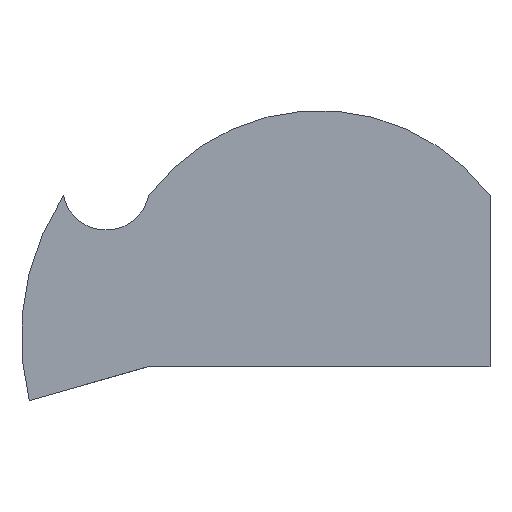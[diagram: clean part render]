
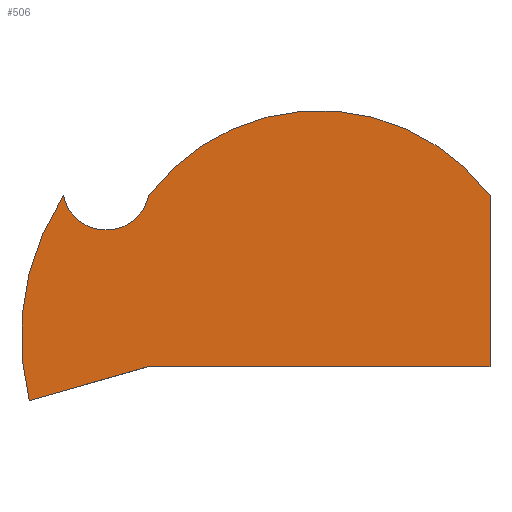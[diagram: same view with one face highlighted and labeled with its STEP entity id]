
A CAD part, top view. The second image highlights one B-rep face of the part: STEP entity #506.
In plain terms, the highlighted planar face has unit normal (0, 0, 1).
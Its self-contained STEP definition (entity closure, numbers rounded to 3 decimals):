
#24 = VERTEX_POINT('',#25);
#25 = CARTESIAN_POINT('',(-9.117,-9.463,1.82
    ));
#32 = PLANE('',#33);
#33 = AXIS2_PLACEMENT_3D('',#34,#35,#36);
#34 = CARTESIAN_POINT('',(-9.117,-9.463,
    -1.82));
#35 = DIRECTION('',(0.,1.,0.));
#36 = DIRECTION('',(1.,0.,0.));
#44 = PLANE('',#45);
#45 = AXIS2_PLACEMENT_3D('',#46,#47,#48);
#46 = CARTESIAN_POINT('',(-19.308,-12.375,
    -1.82));
#47 = DIRECTION('',(-0.275,0.962,0.));
#48 = DIRECTION('',(0.962,0.275,0.));
#56 = EDGE_CURVE('',#24,#57,#59,.T.);
#57 = VERTEX_POINT('',#58);
#58 = CARTESIAN_POINT('',(20.,-9.463,1.82));
#59 = SURFACE_CURVE('',#60,(#64,#71),.PCURVE_S1.);
#60 = LINE('',#61,#62);
#61 = CARTESIAN_POINT('',(-9.117,-9.463,1.82
    ));
#62 = VECTOR('',#63,1.);
#63 = DIRECTION('',(1.,0.,0.));
#64 = PCURVE('',#32,#65);
#65 = DEFINITIONAL_REPRESENTATION('',(#66),#70);
#66 = LINE('',#67,#68);
#67 = CARTESIAN_POINT('',(0.,-3.64));
#68 = VECTOR('',#69,1.);
#69 = DIRECTION('',(1.,0.));
#70 = ( GEOMETRIC_REPRESENTATION_CONTEXT(2) 
PARAMETRIC_REPRESENTATION_CONTEXT() REPRESENTATION_CONTEXT('2D SPACE',''
  ) );
#71 = PCURVE('',#72,#77);
#72 = PLANE('',#73);
#73 = AXIS2_PLACEMENT_3D('',#74,#75,#76);
#74 = CARTESIAN_POINT('',(0.097,-1.226,
    1.82));
#75 = DIRECTION('',(0.,0.,1.));
#76 = DIRECTION('',(1.,0.,-0.));
#77 = DEFINITIONAL_REPRESENTATION('',(#78),#82);
#78 = LINE('',#79,#80);
#79 = CARTESIAN_POINT('',(-9.214,-8.237));
#80 = VECTOR('',#81,1.);
#81 = DIRECTION('',(1.,0.));
#82 = ( GEOMETRIC_REPRESENTATION_CONTEXT(2) 
PARAMETRIC_REPRESENTATION_CONTEXT() REPRESENTATION_CONTEXT('2D SPACE',''
  ) );
#100 = PLANE('',#101);
#101 = AXIS2_PLACEMENT_3D('',#102,#103,#104);
#102 = CARTESIAN_POINT('',(20.,-9.463,-1.82));
#103 = DIRECTION('',(-1.,0.,0.));
#104 = DIRECTION('',(0.,1.,0.));
#142 = EDGE_CURVE('',#57,#143,#145,.T.);
#143 = VERTEX_POINT('',#144);
#144 = CARTESIAN_POINT('',(20.,5.095,1.82));
#145 = SURFACE_CURVE('',#146,(#150,#157),.PCURVE_S1.);
#146 = LINE('',#147,#148);
#147 = CARTESIAN_POINT('',(20.,-9.463,1.82));
#148 = VECTOR('',#149,1.);
#149 = DIRECTION('',(0.,1.,0.));
#150 = PCURVE('',#100,#151);
#151 = DEFINITIONAL_REPRESENTATION('',(#152),#156);
#152 = LINE('',#153,#154);
#153 = CARTESIAN_POINT('',(0.,-3.64));
#154 = VECTOR('',#155,1.);
#155 = DIRECTION('',(1.,0.));
#156 = ( GEOMETRIC_REPRESENTATION_CONTEXT(2) 
PARAMETRIC_REPRESENTATION_CONTEXT() REPRESENTATION_CONTEXT('2D SPACE',''
  ) );
#157 = PCURVE('',#72,#158);
#158 = DEFINITIONAL_REPRESENTATION('',(#159),#163);
#159 = LINE('',#160,#161);
#160 = CARTESIAN_POINT('',(19.903,-8.237));
#161 = VECTOR('',#162,1.);
#162 = DIRECTION('',(0.,1.));
#163 = ( GEOMETRIC_REPRESENTATION_CONTEXT(2) 
PARAMETRIC_REPRESENTATION_CONTEXT() REPRESENTATION_CONTEXT('2D SPACE',''
  ) );
#181 = CYLINDRICAL_SURFACE('',#182,18.198);
#182 = AXIS2_PLACEMENT_3D('',#183,#184,#185);
#183 = CARTESIAN_POINT('',(5.441,-5.823,
    -1.82));
#184 = DIRECTION('',(-0.,-0.,-1.));
#185 = DIRECTION('',(0.8,0.6,-0.));
#218 = EDGE_CURVE('',#143,#219,#221,.T.);
#219 = VERTEX_POINT('',#220);
#220 = CARTESIAN_POINT('',(-9.117,5.095,1.82
    ));
#221 = SURFACE_CURVE('',#222,(#227,#234),.PCURVE_S1.);
#222 = CIRCLE('',#223,18.198);
#223 = AXIS2_PLACEMENT_3D('',#224,#225,#226);
#224 = CARTESIAN_POINT('',(5.441,-5.823,1.82
    ));
#225 = DIRECTION('',(0.,0.,1.));
#226 = DIRECTION('',(0.8,0.6,-0.));
#227 = PCURVE('',#181,#228);
#228 = DEFINITIONAL_REPRESENTATION('',(#229),#233);
#229 = LINE('',#230,#231);
#230 = CARTESIAN_POINT('',(-0.,-3.64));
#231 = VECTOR('',#232,1.);
#232 = DIRECTION('',(-1.,0.));
#233 = ( GEOMETRIC_REPRESENTATION_CONTEXT(2) 
PARAMETRIC_REPRESENTATION_CONTEXT() REPRESENTATION_CONTEXT('2D SPACE',''
  ) );
#234 = PCURVE('',#72,#235);
#235 = DEFINITIONAL_REPRESENTATION('',(#236),#240);
#236 = CIRCLE('',#237,18.198);
#237 = AXIS2_PLACEMENT_2D('',#238,#239);
#238 = CARTESIAN_POINT('',(5.345,-4.598));
#239 = DIRECTION('',(0.8,0.6));
#240 = ( GEOMETRIC_REPRESENTATION_CONTEXT(2) 
PARAMETRIC_REPRESENTATION_CONTEXT() REPRESENTATION_CONTEXT('2D SPACE',''
  ) );
#258 = CYLINDRICAL_SURFACE('',#259,3.731);
#259 = AXIS2_PLACEMENT_3D('',#260,#261,#262);
#260 = CARTESIAN_POINT('',(-12.757,5.914,
    -1.82));
#261 = DIRECTION('',(-0.,0.,-1.));
#262 = DIRECTION('',(0.976,-0.22,-0.));
#296 = EDGE_CURVE('',#219,#297,#299,.T.);
#297 = VERTEX_POINT('',#298);
#298 = CARTESIAN_POINT('',(-16.396,5.095,1.82
    ));
#299 = SURFACE_CURVE('',#300,(#305,#312),.PCURVE_S1.);
#300 = CIRCLE('',#301,3.731);
#301 = AXIS2_PLACEMENT_3D('',#302,#303,#304);
#302 = CARTESIAN_POINT('',(-12.757,5.914,1.82
    ));
#303 = DIRECTION('',(-0.,0.,-1.));
#304 = DIRECTION('',(0.976,-0.22,-0.));
#305 = PCURVE('',#258,#306);
#306 = DEFINITIONAL_REPRESENTATION('',(#307),#311);
#307 = LINE('',#308,#309);
#308 = CARTESIAN_POINT('',(0.,-3.64));
#309 = VECTOR('',#310,1.);
#310 = DIRECTION('',(1.,0.));
#311 = ( GEOMETRIC_REPRESENTATION_CONTEXT(2) 
PARAMETRIC_REPRESENTATION_CONTEXT() REPRESENTATION_CONTEXT('2D SPACE',''
  ) );
#312 = PCURVE('',#72,#313);
#313 = DEFINITIONAL_REPRESENTATION('',(#314),#322);
#314 = ( BOUNDED_CURVE() B_SPLINE_CURVE(2,(#315,#316,#317,#318,#319,#320
,#321),.UNSPECIFIED.,.T.,.F.) B_SPLINE_CURVE_WITH_KNOTS((1,2,2,2,2,1),(
    -2.094,0.,2.094,4.189,6.283,
8.378),.UNSPECIFIED.) CURVE() GEOMETRIC_REPRESENTATION_ITEM() 
RATIONAL_B_SPLINE_CURVE((1.,0.5,1.,0.5,1.,0.5,1.)) REPRESENTATION_ITEM(
  '') );
#315 = CARTESIAN_POINT('',(-9.214,6.321));
#316 = CARTESIAN_POINT('',(-10.632,0.017));
#317 = CARTESIAN_POINT('',(-15.382,4.398));
#318 = CARTESIAN_POINT('',(-20.133,8.778));
#319 = CARTESIAN_POINT('',(-13.964,10.702));
#320 = CARTESIAN_POINT('',(-7.795,12.625));
#321 = CARTESIAN_POINT('',(-9.214,6.321));
#322 = ( GEOMETRIC_REPRESENTATION_CONTEXT(2) 
PARAMETRIC_REPRESENTATION_CONTEXT() REPRESENTATION_CONTEXT('2D SPACE',''
  ) );
#340 = CYLINDRICAL_SURFACE('',#341,21.838);
#341 = AXIS2_PLACEMENT_3D('',#342,#343,#344);
#342 = CARTESIAN_POINT('',(1.838,-6.921,
    -1.82));
#343 = DIRECTION('',(-0.,-0.,-1.));
#344 = DIRECTION('',(-0.835,0.55,0.));
#382 = EDGE_CURVE('',#297,#383,#385,.T.);
#383 = VERTEX_POINT('',#384);
#384 = CARTESIAN_POINT('',(-19.308,-12.375,
    1.82));
#385 = SURFACE_CURVE('',#386,(#391,#398),.PCURVE_S1.);
#386 = CIRCLE('',#387,21.838);
#387 = AXIS2_PLACEMENT_3D('',#388,#389,#390);
#388 = CARTESIAN_POINT('',(1.838,-6.921,1.82
    ));
#389 = DIRECTION('',(0.,0.,1.));
#390 = DIRECTION('',(-0.835,0.55,0.));
#391 = PCURVE('',#340,#392);
#392 = DEFINITIONAL_REPRESENTATION('',(#393),#397);
#393 = LINE('',#394,#395);
#394 = CARTESIAN_POINT('',(-0.,-3.64));
#395 = VECTOR('',#396,1.);
#396 = DIRECTION('',(-1.,0.));
#397 = ( GEOMETRIC_REPRESENTATION_CONTEXT(2) 
PARAMETRIC_REPRESENTATION_CONTEXT() REPRESENTATION_CONTEXT('2D SPACE',''
  ) );
#398 = PCURVE('',#72,#399);
#399 = DEFINITIONAL_REPRESENTATION('',(#400),#404);
#400 = CIRCLE('',#401,21.838);
#401 = AXIS2_PLACEMENT_2D('',#402,#403);
#402 = CARTESIAN_POINT('',(1.741,-5.696));
#403 = DIRECTION('',(-0.835,0.55));
#404 = ( GEOMETRIC_REPRESENTATION_CONTEXT(2) 
PARAMETRIC_REPRESENTATION_CONTEXT() REPRESENTATION_CONTEXT('2D SPACE',''
  ) );
#455 = EDGE_CURVE('',#383,#24,#456,.T.);
#456 = SURFACE_CURVE('',#457,(#461,#468),.PCURVE_S1.);
#457 = LINE('',#458,#459);
#458 = CARTESIAN_POINT('',(-19.308,-12.375,
    1.82));
#459 = VECTOR('',#460,1.);
#460 = DIRECTION('',(0.962,0.275,0.));
#461 = PCURVE('',#44,#462);
#462 = DEFINITIONAL_REPRESENTATION('',(#463),#467);
#463 = LINE('',#464,#465);
#464 = CARTESIAN_POINT('',(0.,-3.64));
#465 = VECTOR('',#466,1.);
#466 = DIRECTION('',(1.,0.));
#467 = ( GEOMETRIC_REPRESENTATION_CONTEXT(2) 
PARAMETRIC_REPRESENTATION_CONTEXT() REPRESENTATION_CONTEXT('2D SPACE',''
  ) );
#468 = PCURVE('',#72,#469);
#469 = DEFINITIONAL_REPRESENTATION('',(#470),#474);
#470 = LINE('',#471,#472);
#471 = CARTESIAN_POINT('',(-19.405,-11.149));
#472 = VECTOR('',#473,1.);
#473 = DIRECTION('',(0.962,0.275));
#474 = ( GEOMETRIC_REPRESENTATION_CONTEXT(2) 
PARAMETRIC_REPRESENTATION_CONTEXT() REPRESENTATION_CONTEXT('2D SPACE',''
  ) );
#506 = ADVANCED_FACE('',(#507),#72,.T.);
#507 = FACE_BOUND('',#508,.T.);
#508 = EDGE_LOOP('',(#509,#510,#511,#512,#513,#514));
#509 = ORIENTED_EDGE('',*,*,#56,.T.);
#510 = ORIENTED_EDGE('',*,*,#142,.T.);
#511 = ORIENTED_EDGE('',*,*,#218,.T.);
#512 = ORIENTED_EDGE('',*,*,#296,.T.);
#513 = ORIENTED_EDGE('',*,*,#382,.T.);
#514 = ORIENTED_EDGE('',*,*,#455,.T.);
